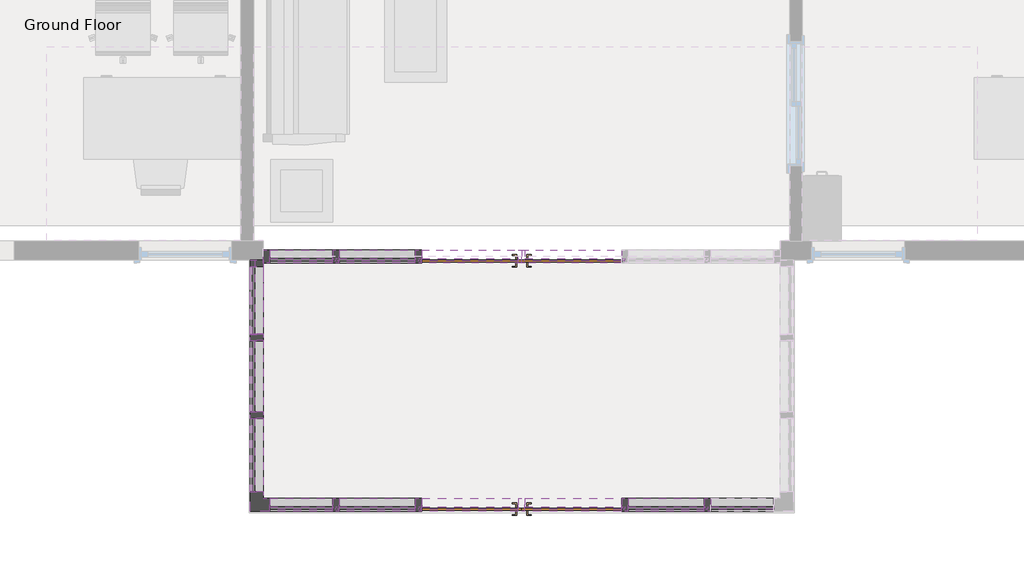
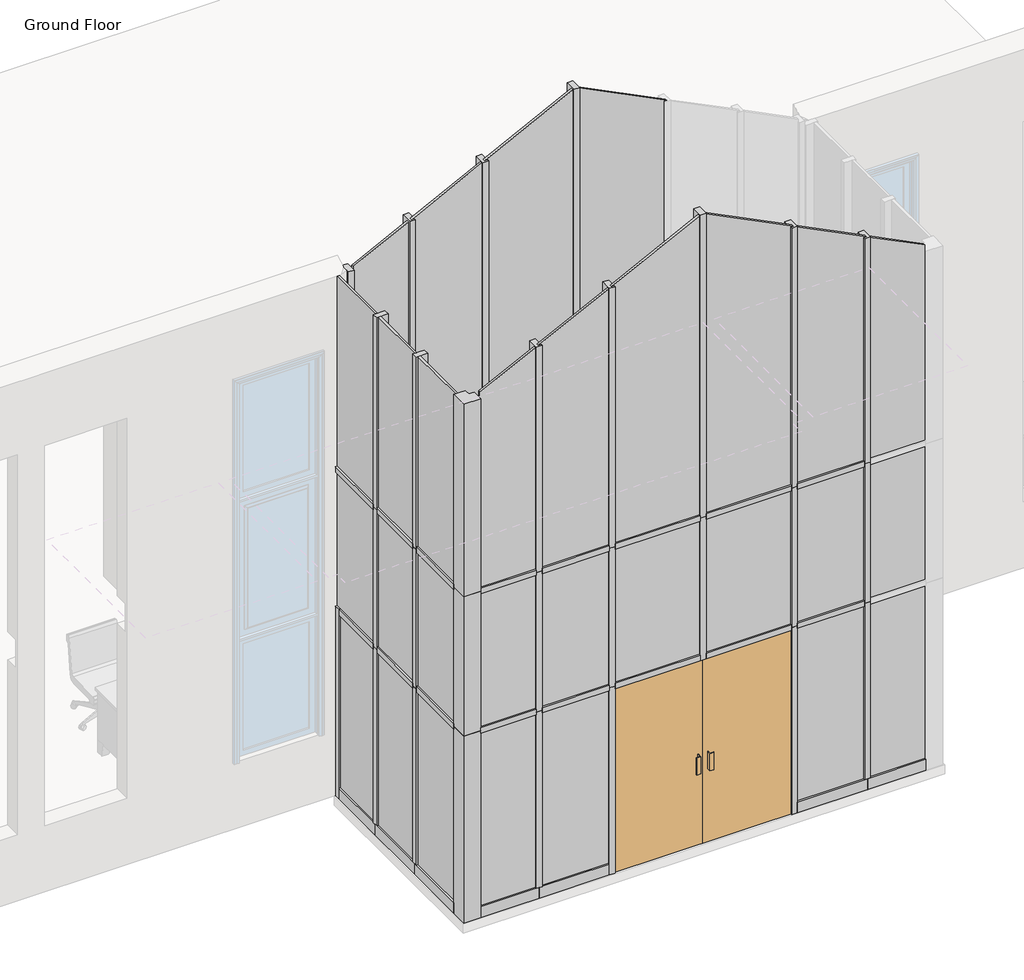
# One storey, part 1 of 5: 64 members, 35 plates, 2 doors.
"""IFC4 building model written with IfcOpenShell, lengths in millimetres."""

from ifc_helpers import new_model, si_unit, origin, place, context, project, spatial, transform, mapped, element, save
from components import curtain_wall_dbl_glass_curtain_wall_dbl_glass_05db96cf, member_5840e612, member_1de6f154, member_07888544, member_4f1c84db, member_2ee2964b, member_c7c5a8a0, member_4285daeb, member_a43dcf29, member_eba58f5c, member_efd07658, member_e8e1ff4f, member_cebf76e9, member_bce667ec, member_b4c2ac5f, member_301edf08, member_f4caef1d, member_3fbb5cd5, member_71c7872d, member_a22931d6, member_5478dbfe, member_1526e78e, member_869738d0, member_f8dc38bf, member_798d6cad, member_73a57e35, member_249e519d, member_307239a2, member_07c0dd6a, member_3a7f528f, member_10cd6abd, member_892852e1, member_f846b880, member_6f657a4a, member_0208a0fb, member_1bc8ff6f, system_panel_0d1f19e3, system_panel_731fbf32, system_panel_16aabe40, system_panel_system_panel_82d31de2, system_panel_system_panel_aed4df24, system_panel_system_panel_0f80bde9, system_panel_system_panel_8455f93f, system_panel_system_panel_c4c053e5, system_panel_system_panel_34ce2d28, system_panel_system_panel_f8c05b70, system_panel_system_panel_3b0a3080, system_panel_system_panel_e46ad46d, system_panel_system_panel_25a6b319, system_panel_system_panel_c4eb9c82, system_panel_system_panel_8af6dda9, system_panel_system_panel_4dc2e190, system_panel_system_panel_c20ba28e, system_panel_system_panel_5f75f87e, system_panel_system_panel_57bbfc52, system_panel_system_panel_4e58ff57, system_panel_system_panel_2f6c06c2, system_panel_system_panel_f158ec16, system_panel_system_panel_0c1b1511, system_panel_system_panel_dc3b2216, system_panel_system_panel_e0f36e76, system_panel_system_panel_14be3267, system_panel_system_panel_e406a2c2

model = new_model("IFC4")

# Units and contexts
model_context = context("Model", 3, world=origin())
ifc_project = project(units=[si_unit("LENGTHUNIT", "METRE", prefix="MILLI")], contexts=[model_context])

# Site, building, storey
site = spatial("IfcSite", under=ifc_project)
building = spatial("IfcBuilding", under=site)
storey = spatial("IfcBuildingStorey", under=building, Name="Ground Floor", Elevation=39624.0)

# Doors
placement = place(None, origin())
curtain_wall_dbl_glass_curtain_wall_dbl_glass_shape = curtain_wall_dbl_glass_curtain_wall_dbl_glass_05db96cf(model_context)
element("IfcDoor", 1, ObjectType="Curtain Wall Dbl Glass : Curtain Wall Dbl Glass", at=placement, inside=storey, context=model_context, shape_type="MappedRepresentation", body=[
    mapped(curtain_wall_dbl_glass_curtain_wall_dbl_glass_shape, transform((-8780.4917336, -16017.9519844, 39624.0), x_axis=(-1.0, 0.0, 0.0), y_axis=(0.0, -1.0, 0.0), z_axis=(0.0, 0.0, 1.0))),
])
element("IfcDoor", 2, ObjectType="Curtain Wall Dbl Glass : Curtain Wall Dbl Glass", at=placement, inside=storey, context=model_context, shape_type="MappedRepresentation", body=[
    mapped(curtain_wall_dbl_glass_curtain_wall_dbl_glass_shape, transform((-8780.4917336, -18456.3519844, 39624.0), x_axis=(-1.0, 0.0, 0.0), y_axis=(0.0, -1.0, 0.0), z_axis=(0.0, 0.0, 1.0))),
])

# Members
member_shape = member_5840e612(model_context)
element("IfcMember", 3, ObjectType="L Corner Mullion : 5\" x 5\" Corner", at=placement, inside=storey, context=model_context, shape_type="MappedRepresentation", body=[
    mapped(member_shape, transform((-11379.2292336, -18456.3519844, 45720.0), x_axis=(0.0, -1.0, 0.0), y_axis=(1.0, 0.0, 0.0), z_axis=(0.0, 0.0, 1.0))),
])
member_2_shape = member_1de6f154(model_context)
element("IfcMember", 4, ObjectType="L Corner Mullion : 5\" x 5\" Corner", at=placement, inside=storey, context=model_context, shape_type="MappedRepresentation", body=[
    mapped(member_2_shape, transform((-11379.2292336, -18456.3519844, 41821.1), x_axis=(0.0, -1.0, 0.0), y_axis=(1.0, 0.0, 0.0), z_axis=(0.0, 0.0, 1.0))),
])
member_3_shape = member_07888544(model_context)
element("IfcMember", 5, ObjectType="L Corner Mullion : 5\" x 5\" Corner", at=placement, inside=storey, context=model_context, shape_type="MappedRepresentation", body=[
    mapped(member_3_shape, transform((-11379.2292336, -18456.3519844, 43459.4), x_axis=(0.0, -1.0, 0.0), y_axis=(1.0, 0.0, 0.0), z_axis=(0.0, 0.0, 1.0))),
])
member_4_shape = member_4f1c84db(model_context)
element("IfcMember", 6, ObjectType="Rectangular Mullion : 2.5\" x 5\" rectangular", at=placement, inside=storey, context=model_context, shape_type="MappedRepresentation", body=[
    mapped(member_4_shape, transform((-11379.2292336, -16811.7019844, 39751.0), x_axis=(0.0, 1.0, 0.0), y_axis=(1.0, 0.0, 0.0), z_axis=(0.0, 0.0, -1.0))),
])
element("IfcMember", 7, ObjectType="Rectangular Mullion : 2.5\" x 5\" rectangular", at=placement, inside=storey, context=model_context, shape_type="MappedRepresentation", body=[
    mapped(member_4_shape, transform((-11379.2292336, -17573.7019844, 39751.0), x_axis=(0.0, 1.0, 0.0), y_axis=(1.0, 0.0, 0.0), z_axis=(0.0, 0.0, -1.0))),
])
element("IfcMember", 8, ObjectType="Rectangular Mullion : 2.5\" x 5\" rectangular", at=placement, inside=storey, context=model_context, shape_type="MappedRepresentation", body=[
    mapped(member_4_shape, transform((-6956.4542336, -18456.3519844, 39751.0), x_axis=(-1.0, 0.0, 0.0), y_axis=(0.0, 1.0, 0.0), z_axis=(0.0, 0.0, -1.0))),
])
element("IfcMember", 9, ObjectType="Rectangular Mullion : 2.5\" x 5\" rectangular", at=placement, inside=storey, context=model_context, shape_type="MappedRepresentation", body=[
    mapped(member_4_shape, transform((-10604.5292336, -18456.3519844, 39751.0), x_axis=(-1.0, 0.0, 0.0), y_axis=(0.0, 1.0, 0.0), z_axis=(0.0, 0.0, -1.0))),
])
member_5_shape = member_2ee2964b(model_context)
element("IfcMember", 10, ObjectType="Rectangular Mullion : 2.5\" x 5\" rectangular", at=placement, inside=storey, context=model_context, shape_type="MappedRepresentation", body=[
    mapped(member_5_shape, transform((-11379.2292336, -16113.2019844, 41821.1), x_axis=(0.0, 0.0, 1.0), y_axis=(1.0, 0.0, 0.0), z_axis=(0.0, 1.0, 0.0))),
])
member_6_shape = member_c7c5a8a0(model_context)
element("IfcMember", 11, ObjectType="Rectangular Mullion : 2.5\" x 5\" rectangular", at=placement, inside=storey, context=model_context, shape_type="MappedRepresentation", body=[
    mapped(member_6_shape, transform((-11379.2292336, -16843.4519844, 41821.1), x_axis=(0.0, 0.0, 1.0), y_axis=(1.0, 0.0, 0.0), z_axis=(0.0, 1.0, 0.0))),
])
element("IfcMember", 12, ObjectType="Rectangular Mullion : 2.5\" x 5\" rectangular", at=placement, inside=storey, context=model_context, shape_type="MappedRepresentation", body=[
    mapped(member_6_shape, transform((-11379.2292336, -16843.4519844, 43459.4), x_axis=(0.0, 0.0, 1.0), y_axis=(1.0, 0.0, 0.0), z_axis=(0.0, 1.0, 0.0))),
])
member_7_shape = member_4285daeb(model_context)
element("IfcMember", 13, ObjectType="Rectangular Mullion : 2.5\" x 5\" rectangular", at=placement, inside=storey, context=model_context, shape_type="MappedRepresentation", body=[
    mapped(member_7_shape, transform((-11379.2292336, -16049.7019844, 39624.0), x_axis=(0.0, 1.0, 0.0), y_axis=(1.0, 0.0, 0.0), z_axis=(0.0, 0.0, -1.0))),
])
member_8_shape = member_a43dcf29(model_context)
element("IfcMember", 14, ObjectType="Rectangular Mullion : 2.5\" x 5\" rectangular", at=placement, inside=storey, context=model_context, shape_type="MappedRepresentation", body=[
    mapped(member_8_shape, transform((-11379.2292336, -17605.4519844, 41821.1), x_axis=(0.0, 0.0, 1.0), y_axis=(1.0, 0.0, 0.0), z_axis=(0.0, 1.0, 0.0))),
])
element("IfcMember", 15, ObjectType="Rectangular Mullion : 2.5\" x 5\" rectangular", at=placement, inside=storey, context=model_context, shape_type="MappedRepresentation", body=[
    mapped(member_8_shape, transform((-11379.2292336, -17605.4519844, 43459.4), x_axis=(0.0, 0.0, 1.0), y_axis=(1.0, 0.0, 0.0), z_axis=(0.0, 1.0, 0.0))),
])
member_9_shape = member_eba58f5c(model_context)
element("IfcMember", 16, ObjectType="Rectangular Mullion : 2.5\" x 5\" rectangular", at=placement, inside=storey, context=model_context, shape_type="MappedRepresentation", body=[
    mapped(member_9_shape, transform((-11379.2292336, -16811.7019844, 41821.1), x_axis=(0.0, 1.0, 0.0), y_axis=(1.0, 0.0, 0.0), z_axis=(0.0, 0.0, -1.0))),
])
element("IfcMember", 17, ObjectType="Rectangular Mullion : 2.5\" x 5\" rectangular", at=placement, inside=storey, context=model_context, shape_type="MappedRepresentation", body=[
    mapped(member_9_shape, transform((-11379.2292336, -17573.7019844, 41821.1), x_axis=(0.0, 1.0, 0.0), y_axis=(1.0, 0.0, 0.0), z_axis=(0.0, 0.0, -1.0))),
])
element("IfcMember", 18, ObjectType="Rectangular Mullion : 2.5\" x 5\" rectangular", at=placement, inside=storey, context=model_context, shape_type="MappedRepresentation", body=[
    mapped(member_9_shape, transform((-6956.4542336, -18456.3519844, 41821.1), x_axis=(-1.0, 0.0, 0.0), y_axis=(0.0, 1.0, 0.0), z_axis=(0.0, 0.0, -1.0))),
])
element("IfcMember", 19, ObjectType="Rectangular Mullion : 2.5\" x 5\" rectangular", at=placement, inside=storey, context=model_context, shape_type="MappedRepresentation", body=[
    mapped(member_9_shape, transform((-7769.2542336, -18456.3519844, 41821.1), x_axis=(-1.0, 0.0, 0.0), y_axis=(0.0, 1.0, 0.0), z_axis=(0.0, 0.0, -1.0))),
])
element("IfcMember", 20, ObjectType="Rectangular Mullion : 2.5\" x 5\" rectangular", at=placement, inside=storey, context=model_context, shape_type="MappedRepresentation", body=[
    mapped(member_9_shape, transform((-9791.7292336, -18456.3519844, 41821.1), x_axis=(-1.0, 0.0, 0.0), y_axis=(0.0, 1.0, 0.0), z_axis=(0.0, 0.0, -1.0))),
])
element("IfcMember", 21, ObjectType="Rectangular Mullion : 2.5\" x 5\" rectangular", at=placement, inside=storey, context=model_context, shape_type="MappedRepresentation", body=[
    mapped(member_9_shape, transform((-10604.5292336, -18456.3519844, 41821.1), x_axis=(-1.0, 0.0, 0.0), y_axis=(0.0, 1.0, 0.0), z_axis=(0.0, 0.0, -1.0))),
])
member_10_shape = member_efd07658(model_context)
element("IfcMember", 22, ObjectType="Rectangular Mullion : 2.5\" x 5\" rectangular", at=placement, inside=storey, context=model_context, shape_type="MappedRepresentation", body=[
    mapped(member_10_shape, transform((-11379.2292336, -16811.7019844, 43459.4), x_axis=(0.0, 1.0, 0.0), y_axis=(1.0, 0.0, 0.0), z_axis=(0.0, 0.0, -1.0))),
])
element("IfcMember", 23, ObjectType="Rectangular Mullion : 2.5\" x 5\" rectangular", at=placement, inside=storey, context=model_context, shape_type="MappedRepresentation", body=[
    mapped(member_10_shape, transform((-11379.2292336, -17573.7019844, 43459.4), x_axis=(0.0, 1.0, 0.0), y_axis=(1.0, 0.0, 0.0), z_axis=(0.0, 0.0, -1.0))),
])
member_11_shape = member_e8e1ff4f(model_context)
element("IfcMember", 24, ObjectType="Rectangular Mullion : 2.5\" x 5\" rectangular", at=placement, inside=storey, context=model_context, shape_type="MappedRepresentation", body=[
    mapped(member_11_shape, transform((-8748.7417336, -18456.3519844, 41821.1), x_axis=(0.0, 0.0, 1.0), y_axis=(0.0, 1.0, 0.0), z_axis=(-1.0, 0.0, 0.0))),
])
element("IfcMember", 25, ObjectType="Rectangular Mullion : 2.5\" x 5\" rectangular", at=placement, inside=storey, context=model_context, shape_type="MappedRepresentation", body=[
    mapped(member_11_shape, transform((-9759.9792336, -18456.3519844, 41821.1), x_axis=(0.0, 0.0, 1.0), y_axis=(0.0, 1.0, 0.0), z_axis=(-1.0, 0.0, 0.0))),
])
element("IfcMember", 26, ObjectType="Rectangular Mullion : 2.5\" x 5\" rectangular", at=placement, inside=storey, context=model_context, shape_type="MappedRepresentation", body=[
    mapped(member_11_shape, transform((-8748.7417336, -18456.3519844, 43459.4), x_axis=(0.0, 0.0, 1.0), y_axis=(0.0, 1.0, 0.0), z_axis=(-1.0, 0.0, 0.0))),
])
element("IfcMember", 27, ObjectType="Rectangular Mullion : 2.5\" x 5\" rectangular", at=placement, inside=storey, context=model_context, shape_type="MappedRepresentation", body=[
    mapped(member_11_shape, transform((-9759.9792336, -18456.3519844, 43459.4), x_axis=(0.0, 0.0, 1.0), y_axis=(0.0, 1.0, 0.0), z_axis=(-1.0, 0.0, 0.0))),
])
member_12_shape = member_cebf76e9(model_context)
element("IfcMember", 28, ObjectType="Rectangular Mullion : 2.5\" x 5\" rectangular", at=placement, inside=storey, context=model_context, shape_type="MappedRepresentation", body=[
    mapped(member_12_shape, transform((-8780.4917336, -18456.3519844, 41789.35), x_axis=(-1.0, 0.0, 0.0), y_axis=(0.0, 1.0, 0.0), z_axis=(0.0, 0.0, -1.0))),
])
member_13_shape = member_bce667ec(model_context)
element("IfcMember", 29, ObjectType="Rectangular Mullion : 2.5\" x 5\" rectangular", at=placement, inside=storey, context=model_context, shape_type="MappedRepresentation", body=[
    mapped(member_13_shape, transform((-11379.2292336, -16049.7019844, 43459.4), x_axis=(0.0, 0.0, 1.0), y_axis=(1.0, 0.0, 0.0), z_axis=(0.0, 1.0, 0.0))),
])
member_14_shape = member_b4c2ac5f(model_context)
element("IfcMember", 30, ObjectType="Rectangular Mullion : 2.5\" x 5\" rectangular", at=placement, inside=storey, context=model_context, shape_type="MappedRepresentation", body=[
    mapped(member_14_shape, transform((-10604.5292336, -16017.9519844, 43453.05), x_axis=(-1.0, 0.0, 0.0), y_axis=(0.0, 1.0, 0.0), z_axis=(0.0, 0.0, -1.0))),
])
member_15_shape = member_301edf08(model_context)
element("IfcMember", 31, ObjectType="Rectangular Mullion : 2.5\" x 5\" rectangular", at=placement, inside=storey, context=model_context, shape_type="MappedRepresentation", body=[
    mapped(member_15_shape, transform((-9791.7292336, -16017.9519844, 43453.05), x_axis=(-1.0, 0.0, 0.0), y_axis=(0.0, 1.0, 0.0), z_axis=(0.0, 0.0, -1.0))),
])
member_16_shape = member_f4caef1d(model_context)
element("IfcMember", 32, ObjectType="Rectangular Mullion : 2.5\" x 5\" rectangular", at=placement, inside=storey, context=model_context, shape_type="MappedRepresentation", body=[
    mapped(member_16_shape, transform((-8780.4917336, -16017.9519844, 43453.05), x_axis=(-1.0, 0.0, 0.0), y_axis=(0.0, 1.0, 0.0), z_axis=(0.0, 0.0, -1.0))),
])
member_17_shape = member_3fbb5cd5(model_context)
element("IfcMember", 33, ObjectType="Rectangular Mullion : 2.5\" x 5\" rectangular", at=placement, inside=storey, context=model_context, shape_type="MappedRepresentation", body=[
    mapped(member_17_shape, transform((-11315.7292336, -16017.9519844, 43453.05), x_axis=(-1.0, 0.0, 0.0), y_axis=(0.0, 1.0, 0.0), z_axis=(0.0, 0.0, -1.0))),
])
member_18_shape = member_71c7872d(model_context)
element("IfcMember", 34, ObjectType="Rectangular Mullion : 2.5\" x 5\" rectangular", at=placement, inside=storey, context=model_context, shape_type="MappedRepresentation", body=[
    mapped(member_18_shape, transform((-6956.4542336, -18456.3519844, 43459.4), x_axis=(-1.0, 0.0, 0.0), y_axis=(0.0, 1.0, 0.0), z_axis=(0.0, 0.0, -1.0))),
])
element("IfcMember", 35, ObjectType="Rectangular Mullion : 2.5\" x 5\" rectangular", at=placement, inside=storey, context=model_context, shape_type="MappedRepresentation", body=[
    mapped(member_18_shape, transform((-10604.5292336, -18456.3519844, 43459.4), x_axis=(-1.0, 0.0, 0.0), y_axis=(0.0, 1.0, 0.0), z_axis=(0.0, 0.0, -1.0))),
])
member_19_shape = member_a22931d6(model_context)
element("IfcMember", 36, ObjectType="Rectangular Mullion : 2.5\" x 5\" rectangular", at=placement, inside=storey, context=model_context, shape_type="MappedRepresentation", body=[
    mapped(member_19_shape, transform((-7769.2542336, -18456.3519844, 43459.4), x_axis=(-1.0, 0.0, 0.0), y_axis=(0.0, 1.0, 0.0), z_axis=(0.0, 0.0, -1.0))),
])
element("IfcMember", 37, ObjectType="Rectangular Mullion : 2.5\" x 5\" rectangular", at=placement, inside=storey, context=model_context, shape_type="MappedRepresentation", body=[
    mapped(member_19_shape, transform((-9791.7292336, -18456.3519844, 43459.4), x_axis=(-1.0, 0.0, 0.0), y_axis=(0.0, 1.0, 0.0), z_axis=(0.0, 0.0, -1.0))),
])
member_20_shape = member_5478dbfe(model_context)
element("IfcMember", 38, ObjectType="Rectangular Mullion : 2.5\" x 5\" rectangular", at=placement, inside=storey, context=model_context, shape_type="MappedRepresentation", body=[
    mapped(member_20_shape, transform((-8780.4917336, -18456.3519844, 43459.4), x_axis=(-1.0, 0.0, 0.0), y_axis=(0.0, 1.0, 0.0), z_axis=(0.0, 0.0, -1.0))),
])
member_21_shape = member_1526e78e(model_context)
element("IfcMember", 39, ObjectType="Rectangular Mullion : 2.5\" x 5\" rectangular", at=placement, inside=storey, context=model_context, shape_type="MappedRepresentation", body=[
    mapped(member_21_shape, transform((-10604.5292336, -16017.9519844, 39624.0), x_axis=(-1.0, 0.0, 0.0), y_axis=(0.0, 1.0, 0.0), z_axis=(0.0, 0.0, -1.0))),
])
element("IfcMember", 40, ObjectType="Rectangular Mullion : 2.5\" x 5\" rectangular", at=placement, inside=storey, context=model_context, shape_type="MappedRepresentation", body=[
    mapped(member_21_shape, transform((-9791.7292336, -16017.9519844, 39624.0), x_axis=(-1.0, 0.0, 0.0), y_axis=(0.0, 1.0, 0.0), z_axis=(0.0, 0.0, -1.0))),
])
element("IfcMember", 41, ObjectType="Rectangular Mullion : 2.5\" x 5\" rectangular", at=placement, inside=storey, context=model_context, shape_type="MappedRepresentation", body=[
    mapped(member_21_shape, transform((-7769.2542336, -18456.3519844, 39624.0), x_axis=(-1.0, 0.0, 0.0), y_axis=(0.0, 1.0, 0.0), z_axis=(0.0, 0.0, -1.0))),
])
element("IfcMember", 42, ObjectType="Rectangular Mullion : 2.5\" x 5\" rectangular", at=placement, inside=storey, context=model_context, shape_type="MappedRepresentation", body=[
    mapped(member_21_shape, transform((-9791.7292336, -18456.3519844, 39624.0), x_axis=(-1.0, 0.0, 0.0), y_axis=(0.0, 1.0, 0.0), z_axis=(0.0, 0.0, -1.0))),
])
member_22_shape = member_869738d0(model_context)
element("IfcMember", 43, ObjectType="Rectangular Mullion : 2.5\" x 5\" rectangular", at=placement, inside=storey, context=model_context, shape_type="MappedRepresentation", body=[
    mapped(member_22_shape, transform((-10604.5292336, -16017.9519844, 41821.1), x_axis=(-1.0, 0.0, 0.0), y_axis=(0.0, 1.0, 0.0), z_axis=(0.0, 0.0, -1.0))),
])
element("IfcMember", 44, ObjectType="Rectangular Mullion : 2.5\" x 5\" rectangular", at=placement, inside=storey, context=model_context, shape_type="MappedRepresentation", body=[
    mapped(member_22_shape, transform((-9791.7292336, -16017.9519844, 41821.1), x_axis=(-1.0, 0.0, 0.0), y_axis=(0.0, 1.0, 0.0), z_axis=(0.0, 0.0, -1.0))),
])
member_23_shape = member_f8dc38bf(model_context)
element("IfcMember", 45, ObjectType="Rectangular Mullion : 2.5\" x 5\" rectangular", at=placement, inside=storey, context=model_context, shape_type="MappedRepresentation", body=[
    mapped(member_23_shape, transform((-11252.2292336, -16017.9519844, 41821.1), x_axis=(0.0, 0.0, 1.0), y_axis=(0.0, 1.0, 0.0), z_axis=(-1.0, 0.0, 0.0))),
])
element("IfcMember", 46, ObjectType="Rectangular Mullion : 2.5\" x 5\" rectangular", at=placement, inside=storey, context=model_context, shape_type="MappedRepresentation", body=[
    mapped(member_23_shape, transform((-11252.2292336, -18456.3519844, 41821.1), x_axis=(0.0, 0.0, 1.0), y_axis=(0.0, 1.0, 0.0), z_axis=(-1.0, 0.0, 0.0))),
])
element("IfcMember", 47, ObjectType="Rectangular Mullion : 2.5\" x 5\" rectangular", at=placement, inside=storey, context=model_context, shape_type="MappedRepresentation", body=[
    mapped(member_23_shape, transform((-11252.2292336, -18456.3519844, 43459.4), x_axis=(0.0, 0.0, 1.0), y_axis=(0.0, 1.0, 0.0), z_axis=(-1.0, 0.0, 0.0))),
])
member_24_shape = member_798d6cad(model_context)
element("IfcMember", 48, ObjectType="Rectangular Mullion : 2.5\" x 5\" rectangular", at=placement, inside=storey, context=model_context, shape_type="MappedRepresentation", body=[
    mapped(member_24_shape, transform((-10572.7792336, -16017.9519844, 41821.1), x_axis=(0.0, 0.0, 1.0), y_axis=(0.0, 1.0, 0.0), z_axis=(-1.0, 0.0, 0.0))),
])
element("IfcMember", 49, ObjectType="Rectangular Mullion : 2.5\" x 5\" rectangular", at=placement, inside=storey, context=model_context, shape_type="MappedRepresentation", body=[
    mapped(member_24_shape, transform((-7737.5042336, -18456.3519844, 41821.1), x_axis=(0.0, 0.0, 1.0), y_axis=(0.0, 1.0, 0.0), z_axis=(-1.0, 0.0, 0.0))),
])
element("IfcMember", 50, ObjectType="Rectangular Mullion : 2.5\" x 5\" rectangular", at=placement, inside=storey, context=model_context, shape_type="MappedRepresentation", body=[
    mapped(member_24_shape, transform((-10572.7792336, -18456.3519844, 41821.1), x_axis=(0.0, 0.0, 1.0), y_axis=(0.0, 1.0, 0.0), z_axis=(-1.0, 0.0, 0.0))),
])
element("IfcMember", 51, ObjectType="Rectangular Mullion : 2.5\" x 5\" rectangular", at=placement, inside=storey, context=model_context, shape_type="MappedRepresentation", body=[
    mapped(member_24_shape, transform((-7737.5042336, -18456.3519844, 43459.4), x_axis=(0.0, 0.0, 1.0), y_axis=(0.0, 1.0, 0.0), z_axis=(-1.0, 0.0, 0.0))),
])
element("IfcMember", 52, ObjectType="Rectangular Mullion : 2.5\" x 5\" rectangular", at=placement, inside=storey, context=model_context, shape_type="MappedRepresentation", body=[
    mapped(member_24_shape, transform((-10572.7792336, -18456.3519844, 43459.4), x_axis=(0.0, 0.0, 1.0), y_axis=(0.0, 1.0, 0.0), z_axis=(-1.0, 0.0, 0.0))),
])
member_25_shape = member_73a57e35(model_context)
element("IfcMember", 53, ObjectType="Rectangular Mullion : 2.5\" x 5\" rectangular", at=placement, inside=storey, context=model_context, shape_type="MappedRepresentation", body=[
    mapped(member_25_shape, transform((-11315.7292336, -16017.9519844, 39624.0), x_axis=(-1.0, 0.0, 0.0), y_axis=(0.0, 1.0, 0.0), z_axis=(0.0, 0.0, -1.0))),
])
member_26_shape = member_249e519d(model_context)
element("IfcMember", 54, ObjectType="Rectangular Mullion : 2.5\" x 5\" rectangular", at=placement, inside=storey, context=model_context, shape_type="MappedRepresentation", body=[
    mapped(member_26_shape, transform((-11315.7292336, -16017.9519844, 41821.1), x_axis=(-1.0, 0.0, 0.0), y_axis=(0.0, 1.0, 0.0), z_axis=(0.0, 0.0, -1.0))),
])
member_27_shape = member_307239a2(model_context)
element("IfcMember", 55, ObjectType="Rectangular Mullion : 2.5\" x 5\" rectangular", at=placement, inside=storey, context=model_context, shape_type="MappedRepresentation", body=[
    mapped(member_27_shape, transform((-8780.4917336, -16017.9519844, 41852.85), x_axis=(-1.0, 0.0, 0.0), y_axis=(0.0, 1.0, 0.0), z_axis=(0.0, 0.0, -1.0))),
])
member_28_shape = member_07c0dd6a(model_context)
element("IfcMember", 56, ObjectType="Rectangular Mullion : 2.5\" x 5\" rectangular", at=placement, inside=storey, context=model_context, shape_type="MappedRepresentation", body=[
    mapped(member_28_shape, transform((-8780.4917336, -16017.9519844, 41821.1), x_axis=(0.0, 0.0, 1.0), y_axis=(0.0, 1.0, 0.0), z_axis=(-1.0, 0.0, 0.0))),
])
element("IfcMember", 57, ObjectType="Rectangular Mullion : 2.5\" x 5\" rectangular", at=placement, inside=storey, context=model_context, shape_type="MappedRepresentation", body=[
    mapped(member_28_shape, transform((-9759.9792336, -16017.9519844, 41821.1), x_axis=(0.0, 0.0, 1.0), y_axis=(0.0, 1.0, 0.0), z_axis=(-1.0, 0.0, 0.0))),
])
member_29_shape = member_3a7f528f(model_context)
element("IfcMember", 58, ObjectType="Rectangular Mullion : 5\" x 5\" Rectangular", at=placement, inside=storey, context=model_context, shape_type="MappedRepresentation", body=[
    mapped(member_29_shape, transform((-9823.4792336, -16017.9519844, 39624.0), x_axis=(0.0, 0.0, -1.0), y_axis=(0.0, 1.0, 0.0), z_axis=(1.0, 0.0, 0.0))),
])
member_30_shape = member_10cd6abd(model_context)
element("IfcMember", 59, ObjectType="Rectangular Mullion : 5\" x 5\" Rectangular", at=placement, inside=storey, context=model_context, shape_type="MappedRepresentation", body=[
    mapped(member_30_shape, transform((-10636.2792336, -16017.9519844, 39624.0), x_axis=(0.0, 0.0, -1.0), y_axis=(0.0, 1.0, 0.0), z_axis=(1.0, 0.0, 0.0))),
])
member_31_shape = member_892852e1(model_context)
element("IfcMember", 60, ObjectType="Rectangular Mullion : 5\" x 5\" Rectangular", at=placement, inside=storey, context=model_context, shape_type="MappedRepresentation", body=[
    mapped(member_31_shape, transform((-11379.2292336, -17573.7019844, 39624.0), x_axis=(0.0, 0.0, -1.0), y_axis=(1.0, 0.0, 0.0), z_axis=(0.0, -1.0, 0.0))),
])
member_32_shape = member_f846b880(model_context)
element("IfcMember", 61, ObjectType="Rectangular Mullion : 5\" x 5\" Rectangular", at=placement, inside=storey, context=model_context, shape_type="MappedRepresentation", body=[
    mapped(member_32_shape, transform((-6308.7542336, -18456.3519844, 39624.0), x_axis=(0.0, 0.0, -1.0), y_axis=(0.0, 1.0, 0.0), z_axis=(1.0, 0.0, 0.0))),
])
member_33_shape = member_6f657a4a(model_context)
element("IfcMember", 62, ObjectType="Rectangular Mullion : 5\" x 5\" Rectangular", at=placement, inside=storey, context=model_context, shape_type="MappedRepresentation", body=[
    mapped(member_33_shape, transform((-6956.4542336, -18456.3519844, 39624.0), x_axis=(0.0, 0.0, -1.0), y_axis=(0.0, 1.0, 0.0), z_axis=(1.0, 0.0, 0.0))),
])
element("IfcMember", 63, ObjectType="Rectangular Mullion : 5\" x 5\" Rectangular", at=placement, inside=storey, context=model_context, shape_type="MappedRepresentation", body=[
    mapped(member_32_shape, transform((-10604.5292336, -18456.3519844, 39624.0), x_axis=(0.0, 0.0, -1.0), y_axis=(0.0, 1.0, 0.0), z_axis=(1.0, 0.0, 0.0))),
])
element("IfcMember", 64, ObjectType="Rectangular Mullion : 5\" x 5\" Rectangular", at=placement, inside=storey, context=model_context, shape_type="MappedRepresentation", body=[
    mapped(member_33_shape, transform((-9823.4792336, -18456.3519844, 39624.0), x_axis=(0.0, 0.0, -1.0), y_axis=(0.0, 1.0, 0.0), z_axis=(1.0, 0.0, 0.0))),
])
member_34_shape = member_0208a0fb(model_context)
element("IfcMember", 65, ObjectType="Rectangular Mullion : 5\" x 5\" Rectangular", at=placement, inside=storey, context=model_context, shape_type="MappedRepresentation", body=[
    mapped(member_34_shape, transform((-11379.2292336, -18329.3519844, 39624.0), x_axis=(0.0, 0.0, -1.0), y_axis=(1.0, 0.0, 0.0), z_axis=(0.0, -1.0, 0.0))),
])
member_35_shape = member_1bc8ff6f(model_context)
element("IfcMember", 66, ObjectType="Rectangular Mullion : 5\" x 5\" Rectangular", at=placement, inside=storey, context=model_context, shape_type="MappedRepresentation", body=[
    mapped(member_35_shape, transform((-11379.2292336, -16811.7019844, 39624.0), x_axis=(0.0, 0.0, -1.0), y_axis=(1.0, 0.0, 0.0), z_axis=(0.0, -1.0, 0.0))),
])

# Plates
system_panel_shape = system_panel_0d1f19e3(model_context)
element("IfcPlate", 67, ObjectType="System Panel : Spandral Panel", at=placement, inside=storey, context=model_context, shape_type="MappedRepresentation", body=[
    mapped(system_panel_shape, transform((-10944.2542336, -16017.9519844, 41852.85), x_axis=(-1.0, 0.0, 0.0), y_axis=(0.0, -1.0, 0.0), z_axis=(0.0, 0.0, 1.0))),
])
system_panel_2_shape = system_panel_731fbf32(model_context)
element("IfcPlate", 68, ObjectType="System Panel : Spandral Panel", at=placement, inside=storey, context=model_context, shape_type="MappedRepresentation", body=[
    mapped(system_panel_2_shape, transform((-10198.1292336, -16017.9519844, 41852.85), x_axis=(-1.0, 0.0, 0.0), y_axis=(0.0, -1.0, 0.0), z_axis=(0.0, 0.0, 1.0))),
])
system_panel_3_shape = system_panel_16aabe40(model_context)
element("IfcPlate", 69, ObjectType="System Panel : Spandral Panel", at=placement, inside=storey, context=model_context, shape_type="MappedRepresentation", body=[
    mapped(system_panel_3_shape, transform((-8274.8729836, -16017.9519844, 41852.85), x_axis=(-1.0, 0.0, 0.0), y_axis=(0.0, -1.0, 0.0), z_axis=(0.0, 0.0, 1.0))),
])
element("IfcPlate", 70, ObjectType="System Panel : Spandral Panel", at=placement, inside=storey, context=model_context, shape_type="MappedRepresentation", body=[
    mapped(system_panel_3_shape, transform((-9286.1104836, -16017.9519844, 41852.85), x_axis=(-1.0, 0.0, 0.0), y_axis=(0.0, -1.0, 0.0), z_axis=(0.0, 0.0, 1.0))),
])
system_panel_system_panel_shape = system_panel_system_panel_82d31de2(model_context)
element("IfcPlate", 71, ObjectType="System Panel : System Panel", at=placement, inside=storey, context=model_context, shape_type="MappedRepresentation", body=[
    mapped(system_panel_system_panel_shape, transform((-11379.2292336, -16446.5769844, 39751.0), x_axis=(0.0, 1.0, 0.0), y_axis=(-1.0, 0.0, 0.0), z_axis=(0.0, 0.0, 1.0))),
])
system_panel_system_panel_2_shape = system_panel_system_panel_aed4df24(model_context)
element("IfcPlate", 72, ObjectType="System Panel : System Panel", at=placement, inside=storey, context=model_context, shape_type="MappedRepresentation", body=[
    mapped(system_panel_system_panel_2_shape, transform((-11379.2292336, -17192.7019844, 39751.0), x_axis=(0.0, 1.0, 0.0), y_axis=(-1.0, 0.0, 0.0), z_axis=(0.0, 0.0, 1.0))),
])
system_panel_system_panel_3_shape = system_panel_system_panel_0f80bde9(model_context)
element("IfcPlate", 73, ObjectType="System Panel : System Panel", at=placement, inside=storey, context=model_context, shape_type="MappedRepresentation", body=[
    mapped(system_panel_system_panel_3_shape, transform((-11379.2292336, -17967.4019844, 39751.0), x_axis=(0.0, 1.0, 0.0), y_axis=(-1.0, 0.0, 0.0), z_axis=(0.0, 0.0, 1.0))),
])
system_panel_system_panel_4_shape = system_panel_system_panel_8455f93f(model_context)
element("IfcPlate", 74, ObjectType="System Panel : System Panel", at=placement, inside=storey, context=model_context, shape_type="MappedRepresentation", body=[
    mapped(system_panel_system_panel_4_shape, transform((-6616.7292336, -18456.3519844, 41852.85), x_axis=(-1.0, 0.0, 0.0), y_axis=(0.0, -1.0, 0.0), z_axis=(0.0, 0.0, 1.0))),
])
element("IfcPlate", 75, ObjectType="System Panel : System Panel", at=placement, inside=storey, context=model_context, shape_type="MappedRepresentation", body=[
    mapped(system_panel_system_panel_4_shape, transform((-10944.2542336, -18456.3519844, 41852.85), x_axis=(-1.0, 0.0, 0.0), y_axis=(0.0, -1.0, 0.0), z_axis=(0.0, 0.0, 1.0))),
])
system_panel_system_panel_5_shape = system_panel_system_panel_c4c053e5(model_context)
element("IfcPlate", 76, ObjectType="System Panel : System Panel", at=placement, inside=storey, context=model_context, shape_type="MappedRepresentation", body=[
    mapped(system_panel_system_panel_5_shape, transform((-7362.8542336, -18456.3519844, 41852.85), x_axis=(-1.0, 0.0, 0.0), y_axis=(0.0, -1.0, 0.0), z_axis=(0.0, 0.0, 1.0))),
])
element("IfcPlate", 77, ObjectType="System Panel : System Panel", at=placement, inside=storey, context=model_context, shape_type="MappedRepresentation", body=[
    mapped(system_panel_system_panel_5_shape, transform((-10198.1292336, -18456.3519844, 41852.85), x_axis=(-1.0, 0.0, 0.0), y_axis=(0.0, -1.0, 0.0), z_axis=(0.0, 0.0, 1.0))),
])
system_panel_system_panel_6_shape = system_panel_system_panel_34ce2d28(model_context)
element("IfcPlate", 78, ObjectType="System Panel : System Panel", at=placement, inside=storey, context=model_context, shape_type="MappedRepresentation", body=[
    mapped(system_panel_system_panel_6_shape, transform((-8274.8729836, -18456.3519844, 41852.85), x_axis=(-1.0, 0.0, 0.0), y_axis=(0.0, -1.0, 0.0), z_axis=(0.0, 0.0, 1.0))),
])
element("IfcPlate", 79, ObjectType="System Panel : System Panel", at=placement, inside=storey, context=model_context, shape_type="MappedRepresentation", body=[
    mapped(system_panel_system_panel_6_shape, transform((-9286.1104836, -18456.3519844, 41852.85), x_axis=(-1.0, 0.0, 0.0), y_axis=(0.0, -1.0, 0.0), z_axis=(0.0, 0.0, 1.0))),
])
system_panel_system_panel_7_shape = system_panel_system_panel_f8c05b70(model_context)
element("IfcPlate", 80, ObjectType="System Panel : System Panel", at=placement, inside=storey, context=model_context, shape_type="MappedRepresentation", body=[
    mapped(system_panel_system_panel_7_shape, transform((-11379.2292336, -17192.7019844, 41852.85), x_axis=(0.0, 1.0, 0.0), y_axis=(-1.0, 0.0, 0.0), z_axis=(0.0, 0.0, 1.0))),
])
system_panel_system_panel_8_shape = system_panel_system_panel_3b0a3080(model_context)
element("IfcPlate", 81, ObjectType="System Panel : System Panel", at=placement, inside=storey, context=model_context, shape_type="MappedRepresentation", body=[
    mapped(system_panel_system_panel_8_shape, transform((-11379.2292336, -17192.7019844, 43491.15), x_axis=(0.0, 1.0, 0.0), y_axis=(-1.0, 0.0, 0.0), z_axis=(0.0, 0.0, 1.0))),
])
system_panel_system_panel_9_shape = system_panel_system_panel_e46ad46d(model_context)
element("IfcPlate", 82, ObjectType="System Panel : System Panel", at=placement, inside=storey, context=model_context, shape_type="MappedRepresentation", body=[
    mapped(system_panel_system_panel_9_shape, transform((-11379.2292336, -17967.4019844, 41852.85), x_axis=(0.0, 1.0, 0.0), y_axis=(-1.0, 0.0, 0.0), z_axis=(0.0, 0.0, 1.0))),
])
system_panel_system_panel_10_shape = system_panel_system_panel_25a6b319(model_context)
element("IfcPlate", 83, ObjectType="System Panel : System Panel", at=placement, inside=storey, context=model_context, shape_type="MappedRepresentation", body=[
    mapped(system_panel_system_panel_10_shape, transform((-11379.2292336, -17967.4019844, 43491.15), x_axis=(0.0, 1.0, 0.0), y_axis=(-1.0, 0.0, 0.0), z_axis=(0.0, 0.0, 1.0))),
])
system_panel_system_panel_11_shape = system_panel_system_panel_c4eb9c82(model_context)
element("IfcPlate", 84, ObjectType="System Panel : System Panel", at=placement, inside=storey, context=model_context, shape_type="MappedRepresentation", body=[
    mapped(system_panel_system_panel_11_shape, transform((-11379.2292336, -16414.8269844, 41852.85), x_axis=(0.0, 1.0, 0.0), y_axis=(-1.0, 0.0, 0.0), z_axis=(0.0, 0.0, 1.0))),
])
system_panel_system_panel_12_shape = system_panel_system_panel_8af6dda9(model_context)
element("IfcPlate", 85, ObjectType="System Panel : System Panel", at=placement, inside=storey, context=model_context, shape_type="MappedRepresentation", body=[
    mapped(system_panel_system_panel_12_shape, transform((-11379.2292336, -16414.8269844, 43491.15), x_axis=(0.0, 1.0, 0.0), y_axis=(-1.0, 0.0, 0.0), z_axis=(0.0, 0.0, 1.0))),
])
system_panel_system_panel_13_shape = system_panel_system_panel_4dc2e190(model_context)
element("IfcPlate", 86, ObjectType="System Panel : System Panel", at=placement, inside=storey, context=model_context, shape_type="MappedRepresentation", body=[
    mapped(system_panel_system_panel_13_shape, transform((-8258.9979836, -16017.9519844, 43453.05), x_axis=(-1.0, 0.0, 0.0), y_axis=(0.0, -1.0, 0.0), z_axis=(0.0, 0.0, 1.0))),
])
system_panel_system_panel_14_shape = system_panel_system_panel_c20ba28e(model_context)
element("IfcPlate", 87, ObjectType="System Panel : System Panel", at=placement, inside=storey, context=model_context, shape_type="MappedRepresentation", body=[
    mapped(system_panel_system_panel_14_shape, transform((-10214.0042336, -16017.9519844, 43453.05), x_axis=(-1.0, 0.0, 0.0), y_axis=(0.0, -1.0, 0.0), z_axis=(0.0, 0.0, 1.0))),
])
system_panel_system_panel_15_shape = system_panel_system_panel_5f75f87e(model_context)
element("IfcPlate", 88, ObjectType="System Panel : System Panel", at=placement, inside=storey, context=model_context, shape_type="MappedRepresentation", body=[
    mapped(system_panel_system_panel_15_shape, transform((-9301.9854836, -16017.9519844, 43453.05), x_axis=(-1.0, 0.0, 0.0), y_axis=(0.0, -1.0, 0.0), z_axis=(0.0, 0.0, 1.0))),
])
system_panel_system_panel_16_shape = system_panel_system_panel_57bbfc52(model_context)
element("IfcPlate", 89, ObjectType="System Panel : System Panel", at=placement, inside=storey, context=model_context, shape_type="MappedRepresentation", body=[
    mapped(system_panel_system_panel_16_shape, transform((-7346.9792336, -18456.3519844, 43491.15), x_axis=(-1.0, 0.0, 0.0), y_axis=(0.0, -1.0, 0.0), z_axis=(0.0, 0.0, 1.0))),
])
system_panel_system_panel_17_shape = system_panel_system_panel_4e58ff57(model_context)
element("IfcPlate", 90, ObjectType="System Panel : System Panel", at=placement, inside=storey, context=model_context, shape_type="MappedRepresentation", body=[
    mapped(system_panel_system_panel_17_shape, transform((-8258.9979836, -18456.3519844, 43491.15), x_axis=(-1.0, 0.0, 0.0), y_axis=(0.0, -1.0, 0.0), z_axis=(0.0, 0.0, 1.0))),
])
system_panel_system_panel_18_shape = system_panel_system_panel_2f6c06c2(model_context)
element("IfcPlate", 91, ObjectType="System Panel : System Panel", at=placement, inside=storey, context=model_context, shape_type="MappedRepresentation", body=[
    mapped(system_panel_system_panel_18_shape, transform((-10214.0042336, -18456.3519844, 43491.15), x_axis=(-1.0, 0.0, 0.0), y_axis=(0.0, -1.0, 0.0), z_axis=(0.0, 0.0, 1.0))),
])
system_panel_system_panel_19_shape = system_panel_system_panel_f158ec16(model_context)
element("IfcPlate", 92, ObjectType="System Panel : System Panel", at=placement, inside=storey, context=model_context, shape_type="MappedRepresentation", body=[
    mapped(system_panel_system_panel_19_shape, transform((-9301.9854836, -18456.3519844, 43491.15), x_axis=(-1.0, 0.0, 0.0), y_axis=(0.0, -1.0, 0.0), z_axis=(0.0, 0.0, 1.0))),
])
system_panel_system_panel_20_shape = system_panel_system_panel_0c1b1511(model_context)
element("IfcPlate", 93, ObjectType="System Panel : System Panel", at=placement, inside=storey, context=model_context, shape_type="MappedRepresentation", body=[
    mapped(system_panel_system_panel_20_shape, transform((-10944.2542336, -16017.9519844, 43453.05), x_axis=(-1.0, 0.0, 0.0), y_axis=(0.0, -1.0, 0.0), z_axis=(0.0, 0.0, 1.0))),
])
system_panel_system_panel_21_shape = system_panel_system_panel_dc3b2216(model_context)
element("IfcPlate", 94, ObjectType="System Panel : System Panel", at=placement, inside=storey, context=model_context, shape_type="MappedRepresentation", body=[
    mapped(system_panel_system_panel_21_shape, transform((-6616.7292336, -18456.3519844, 43491.15), x_axis=(-1.0, 0.0, 0.0), y_axis=(0.0, -1.0, 0.0), z_axis=(0.0, 0.0, 1.0))),
])
system_panel_system_panel_22_shape = system_panel_system_panel_e0f36e76(model_context)
element("IfcPlate", 95, ObjectType="System Panel : System Panel", at=placement, inside=storey, context=model_context, shape_type="MappedRepresentation", body=[
    mapped(system_panel_system_panel_22_shape, transform((-10944.2542336, -18456.3519844, 43491.15), x_axis=(-1.0, 0.0, 0.0), y_axis=(0.0, -1.0, 0.0), z_axis=(0.0, 0.0, 1.0))),
])
system_panel_system_panel_23_shape = system_panel_system_panel_14be3267(model_context)
element("IfcPlate", 96, ObjectType="System Panel : System Panel", at=placement, inside=storey, context=model_context, shape_type="MappedRepresentation", body=[
    mapped(system_panel_system_panel_23_shape, transform((-10944.2542336, -16017.9519844, 39751.0), x_axis=(-1.0, 0.0, 0.0), y_axis=(0.0, -1.0, 0.0), z_axis=(0.0, 0.0, 1.0))),
])
element("IfcPlate", 97, ObjectType="System Panel : System Panel", at=placement, inside=storey, context=model_context, shape_type="MappedRepresentation", body=[
    mapped(system_panel_system_panel_23_shape, transform((-6616.7292336, -18456.3519844, 39751.0), x_axis=(-1.0, 0.0, 0.0), y_axis=(0.0, -1.0, 0.0), z_axis=(0.0, 0.0, 1.0))),
])
element("IfcPlate", 98, ObjectType="System Panel : System Panel", at=placement, inside=storey, context=model_context, shape_type="MappedRepresentation", body=[
    mapped(system_panel_system_panel_23_shape, transform((-10944.2542336, -18456.3519844, 39751.0), x_axis=(-1.0, 0.0, 0.0), y_axis=(0.0, -1.0, 0.0), z_axis=(0.0, 0.0, 1.0))),
])
system_panel_system_panel_24_shape = system_panel_system_panel_e406a2c2(model_context)
element("IfcPlate", 99, ObjectType="System Panel : System Panel", at=placement, inside=storey, context=model_context, shape_type="MappedRepresentation", body=[
    mapped(system_panel_system_panel_24_shape, transform((-10198.1292336, -16017.9519844, 39751.0), x_axis=(-1.0, 0.0, 0.0), y_axis=(0.0, -1.0, 0.0), z_axis=(0.0, 0.0, 1.0))),
])
element("IfcPlate", 100, ObjectType="System Panel : System Panel", at=placement, inside=storey, context=model_context, shape_type="MappedRepresentation", body=[
    mapped(system_panel_system_panel_24_shape, transform((-7362.8542336, -18456.3519844, 39751.0), x_axis=(-1.0, 0.0, 0.0), y_axis=(0.0, -1.0, 0.0), z_axis=(0.0, 0.0, 1.0))),
])
element("IfcPlate", 101, ObjectType="System Panel : System Panel", at=placement, inside=storey, context=model_context, shape_type="MappedRepresentation", body=[
    mapped(system_panel_system_panel_24_shape, transform((-10198.1292336, -18456.3519844, 39751.0), x_axis=(-1.0, 0.0, 0.0), y_axis=(0.0, -1.0, 0.0), z_axis=(0.0, 0.0, 1.0))),
])

save(model, "model.ifc")
